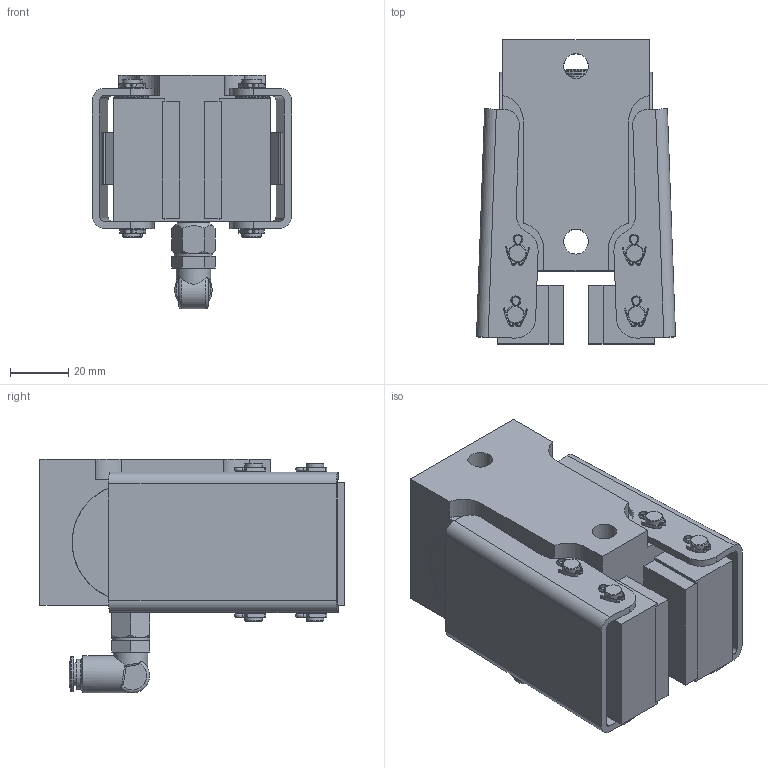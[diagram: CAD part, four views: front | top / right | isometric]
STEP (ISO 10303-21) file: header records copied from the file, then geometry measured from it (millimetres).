
FILE_DESCRIPTION(/* description */ ('','CAx-IF Rec.Pracs.---Representation and Presentation of Product Manufacturing Information (PMI)---4.0---2014-10-13'),/* implementation_level */ '2;1');
FILE_NAME(/* name */ 'X:\INVENTOR\DISEGNI\19_Pinze\STEP x Sito\PNEUM-NEGATIVE\19_36_C02_02 PPC-N C02_08.stp',/* time_stamp */ '2018-02-21T14:50:19+01:00',/* author */ ('stefano'),/* organization */ (''),/* preprocessor_version */ 'ST-DEVELOPER v17',/* originating_system */ 'Autodesk Inventor 2018',/* authorisation */ '');
FILE_SCHEMA (('AP203_CONFIGURATION_CONTROLLED_3D_DESIGN_OF_MECHANICAL_PARTS_AND_ASSEMBLIES_MIM_LF { 1 0 10303 203 3 1 4 }','INTEGRATED_CNC_SCHEMA','AP242_MANAGED_MODEL_BASED_3D_ENGINEERING_MIM_LF { 1 0 10303 442 1 1 4 }'));
Length unit declared in the file: millimetre
Products named in the file (1): 19_36_C02_02 PPC-N C02_08_Substitute_1
Bounding box: 68.05 x 103.99 x 80 mm (x, y, z)
Volume: 250679.2 mm3; surface area: 71842.7 mm2
Topology: 7 solids, 7 shells, 563 faces, 1653 edges, 1118 vertices
Faces by surface type: plane 235, cylinder 185, bspline 101, cone 36, torus 4, sphere 2
Full cylindrical faces by diameter (mm): 1.5 x11, 2.5 x2, 3.242 x2, 4.5 x2, 6 x7, 6.1 x10, 7.25 x16, 8 x1, 8.5 x2, 8.8 x1, 9.5 x1, 10 x4, 10.2 x1, 11.8 x1, 12 x1, 12.8 x1, 13 x1, 14 x1, 15 x1, 33.9 x1, 34 x3, 35.7 x1, 40 x2
Entity records: 25052 total; most frequent: CARTESIAN_POINT 9733, ORIENTED_EDGE 3304, DIRECTION 3068, EDGE_CURVE 1652, AXIS2_PLACEMENT_3D 1188, VERTEX_POINT 1119, CIRCLE 714, LINE 692
